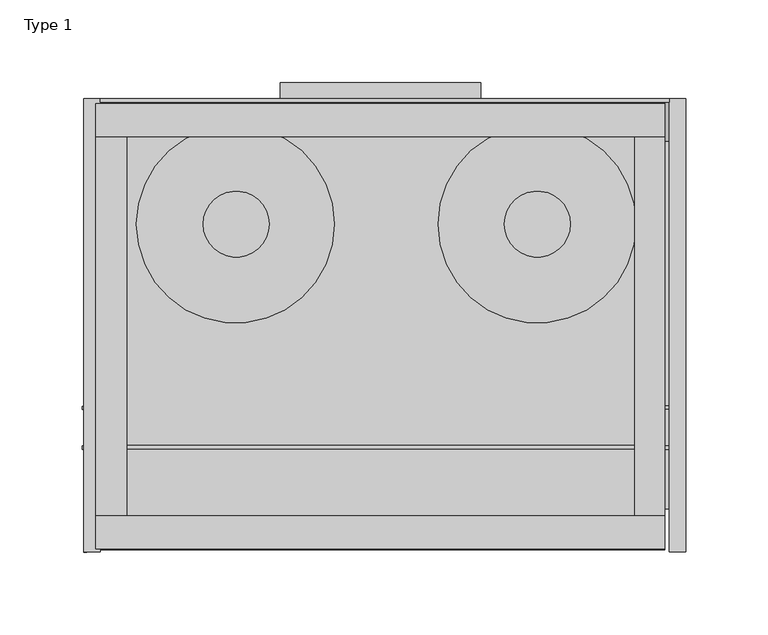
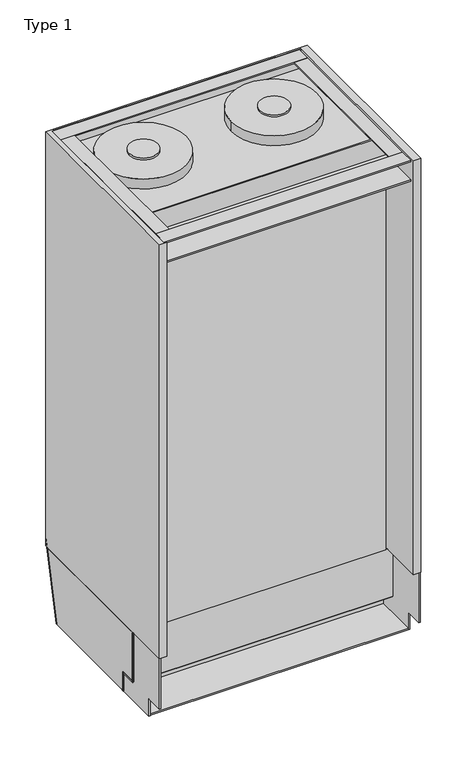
"""IFC4 building model written with IfcOpenShell, lengths in millimetres: proxy geometry, UE001 - Carel_Humidifier_Wallmount_BIM_Model : Type 1."""

from ifc_helpers import new_model, si_unit, point, frame, frame_2d, origin, place, context, project, spatial, polyline, circle_curve, ellipse_curve, trimmed, segment, composite_curve, outline, extrude, source, transform, mapped, element, save
from ifc_brep_helpers import plane_surface, extruded_surface, advanced_brep


def type_1_dec37a97(model_context):
    return source(origin(), model_context, "Body", "SolidModel", [
        extrude(outline(composite_curve([segment(trimmed(circle_curve(frame_2d((-90.9720559, 211.426212)), 20.0), [point((-110.9720559, 211.426212))], [point((-70.9720559, 211.426212))], False, "CARTESIAN"), True, "CONTINUOUS"), segment(trimmed(circle_curve(frame_2d((-90.9720559, 211.426212)), 20.0), [point((-70.9720559, 211.426212))], [point((-110.9720559, 211.426212))], False, "CARTESIAN"), True, "CONTINUOUS")], self_intersect=False)), frame((0.0, 0.0, 1098.1445814), z_axis=(0.0, 0.0, 1.0), x_axis=(1.0, 0.0, 0.0)), (0.0, 0.0, 1.0), 2.8183678),
        extrude(outline(composite_curve([segment(trimmed(circle_curve(frame_2d((91.6156471, 211.426212)), 20.0), [point((71.6156471, 211.426212))], [point((111.6156471, 211.426212))], False, "CARTESIAN"), True, "CONTINUOUS"), segment(trimmed(circle_curve(frame_2d((91.6156471, 211.426212)), 20.0), [point((111.6156471, 211.426212))], [point((71.6156471, 211.426212))], False, "CARTESIAN"), True, "CONTINUOUS")], self_intersect=False)), frame((0.0, 0.0, 1098.1445814), z_axis=(0.0, 0.0, 1.0), x_axis=(1.0, 0.0, 0.0)), (0.0, 0.0, 1.0), 2.8183678),
        extrude(outline(composite_curve([segment(trimmed(circle_curve(frame_2d((91.4514251, 211.426212)), 60.0), [point((151.4514251, 211.426212))], [point((31.4514251, 211.426212))], False, "CARTESIAN"), True, "CONTINUOUS"), segment(trimmed(circle_curve(frame_2d((91.4514251, 211.426212)), 60.0), [point((31.4514251, 211.426212))], [point((151.4514251, 211.426212))], False, "CARTESIAN"), True, "CONTINUOUS")], self_intersect=False)), frame((0.0, 0.0, 1083.4905184), z_axis=(0.0, 0.0, 1.0), x_axis=(1.0, 0.0, 0.0)), (0.0, 0.0, 1.0), 14.6540629),
        extrude(outline(composite_curve([segment(trimmed(circle_curve(frame_2d((-91.4514251, 211.426212)), 60.0), [point((-151.4514251, 211.426212))], [point((-31.4514251, 211.426212))], False, "CARTESIAN"), True, "CONTINUOUS"), segment(trimmed(circle_curve(frame_2d((-91.4514251, 211.426212)), 60.0), [point((-31.4514251, 211.426212))], [point((-151.4514251, 211.426212))], False, "CARTESIAN"), True, "CONTINUOUS")], self_intersect=False)), frame((0.0, 0.0, 1083.4905184), z_axis=(0.0, 0.0, 1.0), x_axis=(1.0, 0.0, 0.0)), (0.0, 0.0, 1.0), 14.6540629),
        extrude(outline(polyline([(287.6569067, 453.8519826), (287.6569067, 447.030123), (276.6148659, 443.0111489), (278.2599805, 450.4317811), (287.6569067, 453.8519826)])), frame((-150.8801784, 0.0, 0.0), z_axis=(1.0, 0.0, 0.0), x_axis=(0.0, 1.0, 0.0)), (0.0, 0.0, 1.0), 20.8809272),
        extrude(outline(polyline([(0.0, -3.8339423), (0.0, 0.0), (27.228015, 0.0), (27.228015, -3.8339423), (0.0, -3.8339423)])), frame((-154.1935427, 273.9162981, 430.8386958), z_axis=(0.0, 0.21643961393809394, 0.9762960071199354), x_axis=(1.0, 0.0, 0.0)), (0.0, 0.0, 1.0), 27.0024194),
        extrude(outline(polyline([(-181.4793267, 261.5980987), (179.42978, 261.5980987), (179.42978, 38.6773855), (-181.4793267, 38.6773855), (-181.4793267, 261.5980987)])), frame((0.0, 0.0, 400.0), z_axis=(0.0, 0.0, 1.0), x_axis=(1.0, 0.0, 0.0)), (0.0, 0.0, 1.0), 2.0),
        extrude(outline(composite_curve([segment(polyline([(519.4577065, 46.4496427), (519.4577065, -53.9639815)]), True, "CONTINUOUS"), segment(trimmed(circle_curve(frame_2d((499.4577065, -14.649782)), 44.1090272), [point((519.4577065, -53.9639815))], [point((479.4577065, -53.9639815))], False, "CARTESIAN"), True, "CONTINUOUS"), segment(polyline([(479.4577065, -53.9639815), (479.4577065, 46.4496427)]), True, "CONTINUOUS"), segment(trimmed(circle_curve(frame_2d((499.4577065, 7.1354432)), 44.1090272), [point((479.4577065, 46.4496427))], [point((519.4577065, 46.4496427))], False, "CARTESIAN"), True, "CONTINUOUS")], self_intersect=False)), frame((0.0, 287.5364506, 0.0), z_axis=(0.0, 1.0, 0.0), x_axis=(0.0, 0.0, 1.0)), (0.0, 0.0, 1.0), 9.9309076),
        extrude(outline(polyline([(529.4577065, 57.1707378), (529.4577065, -64.1734154), (469.4577065, -64.1734154), (469.4577065, 57.1707378), (529.4577065, 57.1707378)]), holes=[composite_curve([segment(trimmed(circle_curve(frame_2d((499.4577065, 7.1354432)), 49.1090272), [point((524.4577065, 49.4047767))], [point((474.4577065, 49.4047767))], True, "CARTESIAN"), True, "CONTINUOUS"), segment(polyline([(474.4577065, 49.4047767), (474.4577065, -56.9191155)]), True, "CONTINUOUS"), segment(trimmed(circle_curve(frame_2d((499.4577065, -14.649782)), 49.1090272), [point((474.4577065, -56.9191155))], [point((524.4577065, -56.9191155))], True, "CARTESIAN"), True, "CONTINUOUS"), segment(polyline([(524.4577065, -56.9191155), (524.4577065, 49.4047767)]), True, "CONTINUOUS")], self_intersect=False)]), frame((0.0, 287.5364506, 0.0), z_axis=(0.0, 1.0, 0.0), x_axis=(0.0, 0.0, 1.0)), (0.0, 0.0, 1.0), 9.9309076),
        extrude(outline(polyline([(168.7469486, 285.151872), (168.7469486, 13.8641482), (-176.2612875, 13.8641482), (-176.2612875, 285.151872), (168.7469486, 285.151872)])), frame((0.0, 0.0, 1081.4750398), z_axis=(0.0, 0.0, 1.0), x_axis=(1.0, 0.0, 0.0)), (0.0, 0.0, 1.0), 2.0154786),
        extrude(outline(polyline([(-176.2612875, 264.536335), (-176.2612875, 284.536335), (168.7469486, 284.536335), (168.7469486, 264.536335), (-176.2612875, 264.536335)])), frame((0.0, 0.0, 1109.8966395), z_axis=(0.0, 0.0, 1.0), x_axis=(1.0, 0.0, 0.0)), (0.0, 0.0, 1.0), 2.1033605),
        extrude(outline(polyline([(-176.2612875, 14.536335), (-176.2612875, 34.536335), (168.7469486, 34.536335), (168.7469486, 14.536335), (-176.2612875, 14.536335)])), frame((0.0, 0.0, 1109.8966395), z_axis=(0.0, 0.0, 1.0), x_axis=(1.0, 0.0, 0.0)), (0.0, 0.0, 1.0), 2.1033605),
        extrude(outline(polyline([(-157.3180842, 34.536335), (-176.2612875, 34.536335), (-176.2612875, 264.536335), (-157.3180842, 264.536335), (-157.3180842, 34.536335)])), frame((0.0, 0.0, 1104.1981623), z_axis=(0.0, 0.0, 1.0), x_axis=(1.0, 0.0, 0.0)), (0.0, 0.0, 1.0), 7.8083825),
        extrude(outline(polyline([(150.60469, 34.536335), (150.60469, 264.536335), (168.7469486, 264.536335), (168.7469486, 34.536335), (150.60469, 34.536335)])), frame((0.0, 0.0, 1109.8966395), z_axis=(0.0, 0.0, 1.0), x_axis=(1.0, 0.0, 0.0)), (0.0, 0.0, 1.0), 2.0244427),
        extrude(outline(polyline([(176.68893, 100.9740846), (176.68893, 99.0602683), (-184.2032688, 99.0602683), (-184.2032688, 100.9740846), (176.68893, 100.9740846)])), frame((0.0, 0.0, 400.0), z_axis=(0.0, 0.0, 1.0), x_axis=(1.0, 0.0, 0.0)), (0.0, 0.0, 1.0), 2.0),
        extrude(outline(polyline([(179.42978, 99.0602683), (179.42978, 76.9953596), (-183.5288733, 76.9953596), (-183.5288733, 99.0602683), (179.42978, 99.0602683)])), frame((0.0, 0.0, 425.3090696), z_axis=(0.0, 0.0, 1.0), x_axis=(1.0, 0.0, 0.0)), (0.0, 0.0, 1.0), 2.0817444),
        advanced_brep(
        [(171.4793447, 285.4636447, 500.0), (171.4793447, 285.4636447, 1112.0), (-173.5288914, 285.4636447, 1112.0), (-173.5288914, 285.4636447, 500.0), (31.4711086, 285.4636447, 1037.0), (-33.5288914, 285.4636447, 1037.0), (171.4793447, 287.5364506, 500.0), (-173.5288914, 287.5364506, 500.0), (-173.5288914, 287.5364506, 1112.0), (171.4793447, 287.5364506, 1112.0), (31.4711086, 287.5364506, 1037.0), (-33.5288914, 287.5364506, 1037.0)],
        [
            (0, 1),
            (1, 2),
            (2, 3),
            (3, 0),
            (4, 5, ellipse_curve(frame((-1.0288914, 285.4636447, 1037.0), z_axis=(0.0, 1.0, 0.0), x_axis=(-1.0, 0.0, 0.0)), 32.5, 10.0)),
            (5, 4, ellipse_curve(frame((-1.0288914, 285.4636447, 1037.0), z_axis=(0.0, 1.0, 0.0), x_axis=(1.0, 0.0, 0.0)), 32.5, 10.0)),
            (6, 7),
            (7, 8),
            (8, 9),
            (9, 6),
            (10, 11, ellipse_curve(frame((-1.0288914, 287.5364506, 1037.0), z_axis=(0.0, -1.0, 0.0), x_axis=(1.0, 0.0, 0.0)), 32.5, 10.0)),
            (11, 10, ellipse_curve(frame((-1.0288914, 287.5364506, 1037.0), z_axis=(0.0, -1.0, 0.0), x_axis=(-1.0, 0.0, 0.0)), 32.5, 10.0)),
            (3, 7),
            (6, 0),
            (2, 8),
            (1, 9),
            (4, 10),
            (11, 5),
        ],
        [
            plane_surface(frame((171.4793447, 285.4636447, 601.0000128), z_axis=(0.0, -1.0, 0.0), x_axis=(0.0, 0.0, 1.0))),
            plane_surface(frame((171.4793447, 287.5364506, 601.0000128), z_axis=(0.0, 1.0, 0.0), x_axis=(0.0, 0.0, -1.0))),
            plane_surface(frame((-173.5288914, 285.4636447, 500.0), z_axis=(0.0, 0.0, -1.0), x_axis=(0.0, 1.0, 0.0))),
            plane_surface(frame((-173.5288914, 285.4636447, 1112.0), z_axis=(-1.0, 0.0, 0.0), x_axis=(0.0, 1.0, 0.0))),
            plane_surface(frame((171.4793447, 285.4636447, 1112.0), z_axis=(0.0, 0.0, 1.0), x_axis=(0.0, 1.0, 0.0))),
            plane_surface(frame((171.4793447, 285.4636447, 500.0), z_axis=(1.0, 0.0, 0.0), x_axis=(0.0, 1.0, 0.0))),
            extruded_surface(trimmed(ellipse_curve(frame((-1.0288914, 214.5728036, 1037.0), z_axis=(0.0, 1.0, 0.0), x_axis=(-1.0, 0.0, 0.0)), 32.5, 10.0), [point((31.4711086, 214.5728036, 1037.0))], [point((-33.5288914, 214.5728036, 1037.0))], True, "CARTESIAN"), (0.0, -2.0728057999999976, 0.0), 2.0728057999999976),
            extruded_surface(trimmed(ellipse_curve(frame((-1.0288914, 214.5728036, 1037.0), z_axis=(0.0, 1.0, 0.0), x_axis=(1.0, 0.0, 0.0)), 32.5, 10.0), [point((-33.5288914, 214.5728036, 1037.0))], [point((31.4711086, 214.5728036, 1037.0))], True, "CARTESIAN"), (0.0, -2.0728057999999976, 0.0), 2.0728057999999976),
        ],
        [
            (0, [[1, 2, 3, 4], [5, 6]]),
            (1, [[7, 8, 9, 10], [11, 12]]),
            (2, [[-4, 13, -7, 14]]),
            (3, [[-3, 15, -8, -13]]),
            (4, [[-2, 16, -9, -15]]),
            (5, [[-1, -14, -10, -16]]),
            (6, [[-5, 17, -12, 18]]),
            (7, [[-6, -18, -11, -17]]),
        ],
    ),
        advanced_brep(
        [(30.9036292, 285.4636447, 1037.0), (-33.0288914, 285.4636447, 1037.0), (30.9036292, 287.5364506, 1037.0), (-33.0288914, 287.5364506, 1037.0)],
        [
            (0, 1, ellipse_curve(frame((-1.0626311, 285.4636447, 1037.0), z_axis=(0.0, -1.0, 0.0), x_axis=(1.0, 0.0, 0.0)), 31.9662603, 9.5628849)),
            (1, 0, ellipse_curve(frame((-1.0626311, 285.4636447, 1037.0), z_axis=(0.0, -1.0, 0.0), x_axis=(-1.0, 0.0, 0.0)), 31.9662603, 9.4535919)),
            (2, 3, ellipse_curve(frame((-1.0626311, 287.5364506, 1037.0), z_axis=(0.0, 1.0, 0.0), x_axis=(-1.0, 0.0, 0.0)), 31.9662603, 9.4535919)),
            (3, 2, ellipse_curve(frame((-1.0626311, 287.5364506, 1037.0), z_axis=(0.0, 1.0, 0.0), x_axis=(1.0, 0.0, 0.0)), 31.9662603, 9.5628849)),
            (0, 2),
            (3, 1),
        ],
        [
            plane_surface(frame((171.4793447, 285.4636447, 601.0000128), z_axis=(0.0, -1.0, 0.0), x_axis=(0.0, 0.0, 1.0))),
            plane_surface(frame((171.4793447, 287.5364506, 601.0000128), z_axis=(0.0, 1.0, 0.0), x_axis=(0.0, 0.0, -1.0))),
            extruded_surface(trimmed(ellipse_curve(frame((-1.0626311, 214.5728036, 1037.0), z_axis=(0.0, -1.0, 0.0), x_axis=(1.0, 0.0, 0.0)), 31.9662603, 9.5628849), [point((30.9036292, 214.5728036, 1037.0))], [point((-33.0288914, 214.5728036, 1037.0))], True, "CARTESIAN"), (0.0, -2.0728057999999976, 0.0), 2.0728057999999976),
            extruded_surface(trimmed(ellipse_curve(frame((-1.0626311, 214.5728036, 1037.0), z_axis=(0.0, -1.0, 0.0), x_axis=(-1.0, 0.0, 0.0)), 31.9662603, 9.4535919), [point((-33.0288914, 214.5728036, 1037.0))], [point((30.9036292, 214.5728036, 1037.0))], True, "CARTESIAN"), (0.0, -2.0728057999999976, 0.0), 2.0728057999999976),
        ],
        [
            (0, [[1, 2]]),
            (1, [[3, 4]]),
            (2, [[-1, 5, -4, 6]]),
            (3, [[-2, -6, -3, -5]]),
        ],
    ),
        extrude(outline(polyline([(-176.2612875, 77.0363508), (168.7469486, 77.0363508), (168.7469486, 75.0), (-176.2612875, 75.0), (-176.2612875, 77.0363508)])), frame((0.0, 0.0, 500.0), z_axis=(0.0, 0.0, 1.0), x_axis=(1.0, 0.0, 0.0)), (0.0, 0.0, 1.0), 612.0),
        extrude(outline(polyline([(-184.2117227, 76.9953596), (178.7469306, 76.9953596), (178.7469306, 75.0), (-184.2117227, 75.0), (-184.2117227, 76.9953596)])), frame((0.0, 0.0, 427.3908139), z_axis=(0.0, 0.0, 1.0), x_axis=(1.0, 0.0, 0.0)), (0.0, 0.0, 1.0), 72.6091861),
        extrude(outline(polyline([(-183.5288733, 12.4999876), (-183.5288733, 287.5), (-173.5288914, 287.5), (-173.5288914, 12.4999876), (-183.5288733, 12.4999876)])), frame((0.0, 0.0, 500.0), z_axis=(0.0, 0.0, 1.0), x_axis=(1.0, 0.0, 0.0)), (0.0, 0.0, 1.0), 612.0),
        extrude(outline(polyline([(-183.5288733, 101.1773855), (181.4793267, 101.1773855), (181.4793267, 99.0602683), (-183.5288733, 99.0602683), (-183.5288733, 101.1773855)])), frame((0.0, 0.0, 400.0), z_axis=(0.0, 0.0, 1.0), x_axis=(1.0, 0.0, 0.0)), (0.0, 0.0, 1.0), 27.3908139),
        extrude(outline(polyline([(287.5364506, 510.7561389), (262.9824086, 400.0000128), (261.5980987, 400.0000128), (286.1521407, 510.7561389), (287.5364506, 510.7561389)])), frame((-183.5206798, 0.0, 0.0), z_axis=(1.0, 0.0, 0.0), x_axis=(0.0, 1.0, 0.0)), (0.0, 0.0, 1.0), 362.9335519),
        extrude(outline(polyline([(37.9, 400.0000128), (37.9, 425.4000128), (12.5, 425.4000128), (12.5, 500.0), (283.7675622, 500.0), (261.5980987, 400.0000128), (37.9, 400.0000128)])), frame((-183.5288733, 0.0, 0.0), z_axis=(1.0, 0.0, 0.0), x_axis=(0.0, 1.0, 0.0)), (0.0, 0.0, 1.0), 2.0495467),
        extrude(outline(polyline([(181.4793267, 287.5364506), (181.4793267, 12.4999876), (171.4793447, 12.4999876), (171.4793447, 287.5364506), (181.4793267, 287.5364506)])), frame((0.0, 0.0, 500.0), z_axis=(0.0, 0.0, 1.0), x_axis=(1.0, 0.0, 0.0)), (0.0, 0.0, 1.0), 612.0),
        extrude(outline(polyline([(39.2641482, 399.9090696), (39.2641482, 425.3090696), (13.8641482, 425.3090696), (13.8641482, 500.0), (285.151872, 500.0), (262.9622469, 399.9090696), (39.2641482, 399.9090696)])), frame((179.42978, 0.0, 0.0), z_axis=(1.0, 0.0, 0.0), x_axis=(0.0, 1.0, 0.0)), (0.0, 0.0, 1.0), 2.0495467),
    ])


if __name__ == "__main__":
    model = new_model("IFC4")
    model_context = context("Model", 3, world=origin())
    ifc_project = project(units=[si_unit("LENGTHUNIT", "METRE", prefix="MILLI")], contexts=[model_context])
    site = spatial("IfcSite", under=ifc_project)
    building = spatial("IfcBuilding", under=site)
    placement = place(None, origin())
    type_1_shape = type_1_dec37a97(model_context)
    element("IfcBuildingElementProxy", 1, Name="UE001 - Carel_Humidifier_Wallmount_BIM_Model : Type 1", ObjectType="UE001 - Carel_Humidifier_Wallmount_BIM_Model : Type 1", at=placement, inside=building, context=model_context, shape_type="MappedRepresentation", body=[
        mapped(type_1_shape, transform((0.0, 0.0, 0.0), x_axis=(1.0, 0.0, 0.0), y_axis=(0.0, 1.0, 0.0), z_axis=(0.0, 0.0, 1.0))),
    ])
    save(model, "model.ifc")
